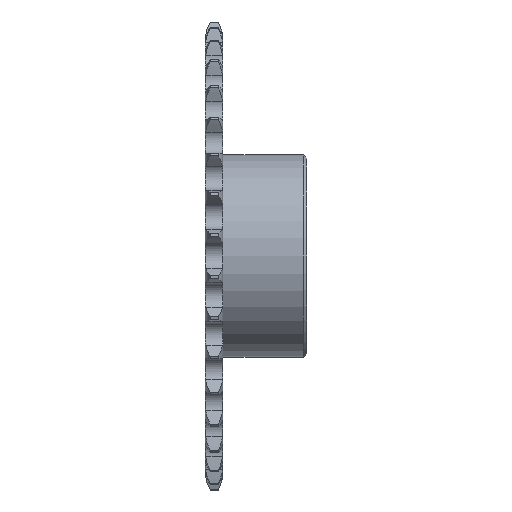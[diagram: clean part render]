
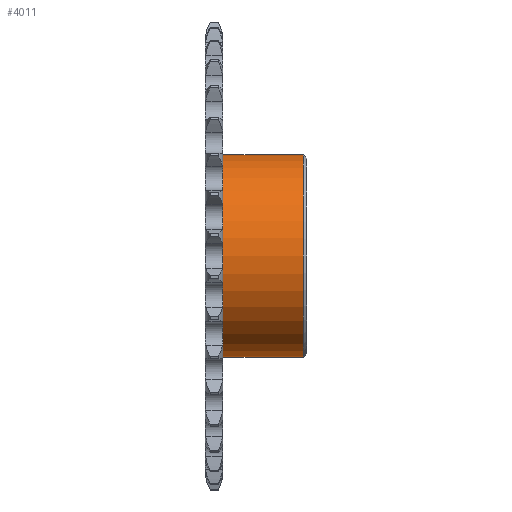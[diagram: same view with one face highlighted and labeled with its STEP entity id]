
A CAD part, front view. The second image highlights one B-rep face of the part: STEP entity #4011.
In plain terms, the highlighted cylindrical face has radius 15 mm (diameter 30 mm), a full revolution.
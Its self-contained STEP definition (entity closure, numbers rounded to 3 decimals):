
#19=FACE_BOUND('',#747,.T.);
#308=CIRCLE('',#4439,15.);
#310=CIRCLE('',#4443,15.);
#527=FACE_OUTER_BOUND('',#746,.T.);
#746=EDGE_LOOP('',(#3575));
#747=EDGE_LOOP('',(#3576));
#1740=VERTEX_POINT('',#8011);
#1741=VERTEX_POINT('',#8016);
#2376=EDGE_CURVE('',#1740,#1740,#308,.T.);
#2378=EDGE_CURVE('',#1741,#1741,#310,.T.);
#3575=ORIENTED_EDGE('',*,*,#2378,.F.);
#3576=ORIENTED_EDGE('',*,*,#2376,.T.);
#3798=CYLINDRICAL_SURFACE('',#4442,15.);
#4011=ADVANCED_FACE('',(#527,#19),#3798,.T.);
#4439=AXIS2_PLACEMENT_3D('',#8012,#5435,#5436);
#4442=AXIS2_PLACEMENT_3D('',#8015,#5441,#5442);
#4443=AXIS2_PLACEMENT_3D('',#8017,#5443,#5444);
#5435=DIRECTION('center_axis',(1.,0.,0.));
#5436=DIRECTION('ref_axis',(0.,0.,-1.));
#5441=DIRECTION('center_axis',(1.,0.,0.));
#5442=DIRECTION('ref_axis',(0.,1.,0.));
#5443=DIRECTION('center_axis',(1.,0.,0.));
#5444=DIRECTION('ref_axis',(0.,0.,-1.));
#8011=CARTESIAN_POINT('',(1.267,-2.844,0.));
#8012=CARTESIAN_POINT('Origin',(1.267,-17.844,0.));
#8015=CARTESIAN_POINT('Origin',(7.217,-17.844,0.));
#8016=CARTESIAN_POINT('',(13.167,-2.844,0.));
#8017=CARTESIAN_POINT('Origin',(13.167,-17.844,0.));
